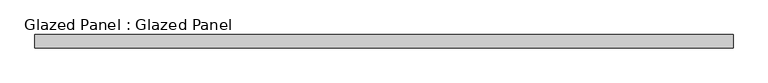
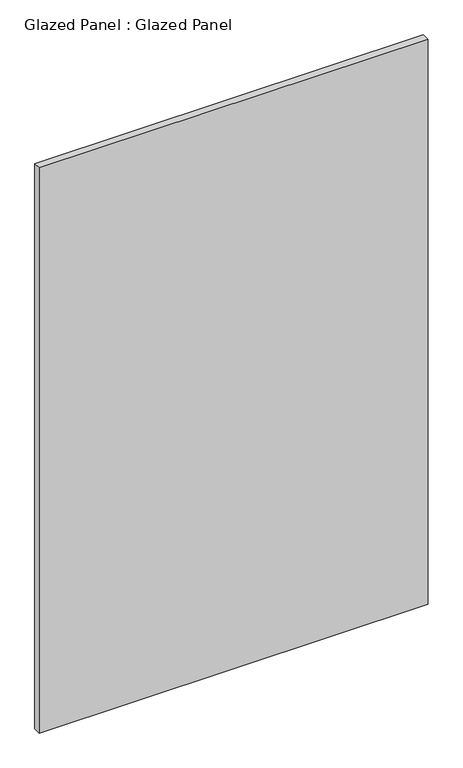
"""IFC4 building model written with IfcOpenShell, lengths in millimetres: plate geometry, Glazed Panel : Glazed Panel."""

from ifc_helpers import new_model, si_unit, origin, origin_with_axes, place, context, project, spatial, polyline, outline, extrude, source, transform, mapped, element, save


def glazed_panel_glazed_panel_06b05642(model_context):
    return source(origin(), model_context, "Body", "SweptSolid", [
        extrude(outline(polyline([(663.575, 38.1), (-663.575, 38.1), (-663.575, 63.5), (663.575, 63.5), (663.575, 38.1)])), origin_with_axes(), (0.0, 0.0, 1.0), 2038.35),
    ])


if __name__ == "__main__":
    model = new_model("IFC4")
    model_context = context("Model", 3, world=origin())
    ifc_project = project(units=[si_unit("LENGTHUNIT", "METRE", prefix="MILLI")], contexts=[model_context])
    site = spatial("IfcSite", under=ifc_project)
    building = spatial("IfcBuilding", under=site)
    placement = place(None, origin())
    glazed_panel_glazed_panel_shape = glazed_panel_glazed_panel_06b05642(model_context)
    element("IfcPlate", 1, ObjectType="Glazed Panel : Glazed Panel", at=placement, inside=building, context=model_context, shape_type="MappedRepresentation", body=[
        mapped(glazed_panel_glazed_panel_shape, transform((0.0, 0.0, 0.0), x_axis=(1.0, 0.0, 0.0), y_axis=(0.0, 1.0, 0.0), z_axis=(0.0, 0.0, 1.0))),
    ])
    save(model, "model.ifc")
